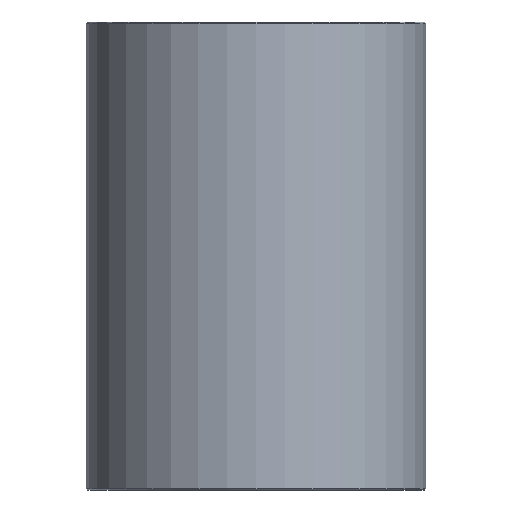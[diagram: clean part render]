
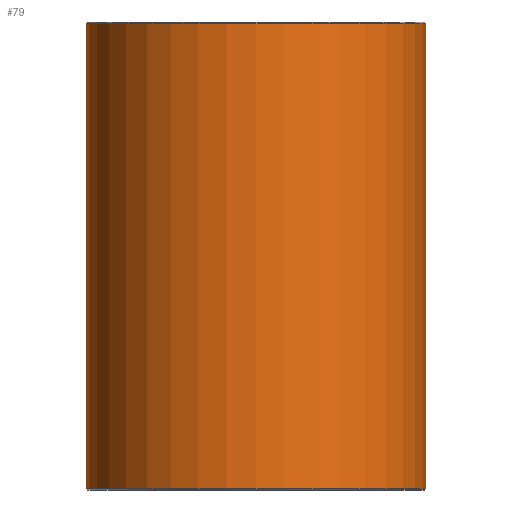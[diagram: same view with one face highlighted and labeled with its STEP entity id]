
A CAD part, front view. The second image highlights one B-rep face of the part: STEP entity #79.
In plain terms, the highlighted cylindrical face has radius 29 mm (diameter 58 mm), a full revolution.
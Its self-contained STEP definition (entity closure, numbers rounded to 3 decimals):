
#79=ADVANCED_FACE('',(#96,#97),#98,.T.);
#96=FACE_OUTER_BOUND('',#120,.T.);
#97=FACE_OUTER_BOUND('',#121,.T.);
#98=CYLINDRICAL_SURFACE('',#122,29.0);
#120=EDGE_LOOP('',(#152));
#121=EDGE_LOOP('',(#153));
#122=AXIS2_PLACEMENT_3D('',#154,#155,#156);
#152=ORIENTED_EDGE('',*,*,#178,.T.);
#153=ORIENTED_EDGE('',*,*,#177,.T.);
#154=CARTESIAN_POINT('',(0.0,0.0,80.0));
#155=DIRECTION('',(0.0,0.0,-1.0));
#156=DIRECTION('',(-1.0,0.0,0.0));
#177=EDGE_CURVE('',#190,#190,#191,.T.);
#178=EDGE_CURVE('',#192,#192,#193,.F.);
#190=VERTEX_POINT('',#206);
#191=CIRCLE('',#207,29.0);
#192=VERTEX_POINT('',#208);
#193=CIRCLE('',#209,29.0);
#206=CARTESIAN_POINT('',(29.0,0.0,0.2));
#207=AXIS2_PLACEMENT_3D('',#227,#228,#229);
#208=CARTESIAN_POINT('',(29.0,0.,79.8));
#209=AXIS2_PLACEMENT_3D('',#230,#231,#232);
#227=CARTESIAN_POINT('',(0.0,0.0,0.2));
#228=DIRECTION('',(0.0,0.0,1.0));
#229=DIRECTION('',(1.0,0.0,0.0));
#230=CARTESIAN_POINT('',(0.0,0.0,79.8));
#231=DIRECTION('',(0.0,0.0,1.0));
#232=DIRECTION('',(1.0,0.0,0.0));
